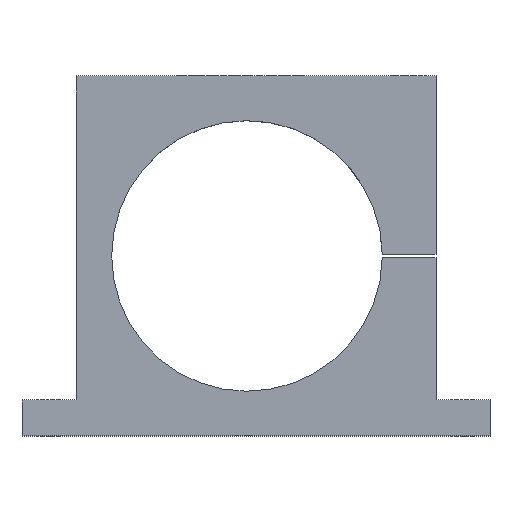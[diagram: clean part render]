
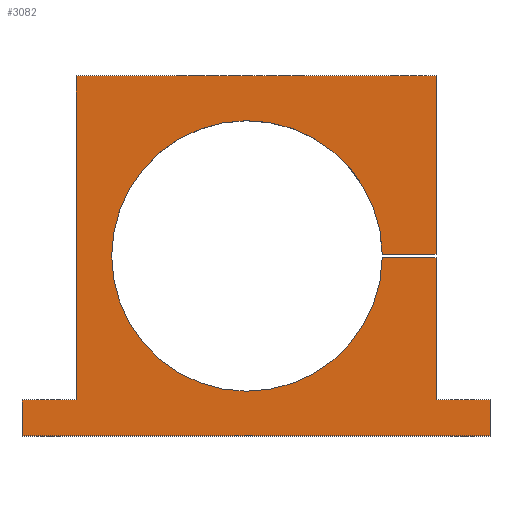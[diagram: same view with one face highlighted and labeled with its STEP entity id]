
A CAD part, top view. The second image highlights one B-rep face of the part: STEP entity #3082.
In plain terms, the highlighted planar face has unit normal (0, 0, 1).
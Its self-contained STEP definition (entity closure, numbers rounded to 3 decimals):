
#40=CIRCLE('',#3215,75.15);
#157=PLANE('',#3223);
#320=FACE_OUTER_BOUND('',#505,.T.);
#505=EDGE_LOOP('',(#2847,#2848,#2849,#2850,#2851,#2852,#2853,#2854,#2855,
#2856,#2857,#2858));
#769=LINE('',#5347,#1071);
#789=LINE('',#5427,#1091);
#790=LINE('',#5431,#1092);
#792=LINE('',#5435,#1094);
#795=LINE('',#5443,#1097);
#797=LINE('',#5447,#1099);
#799=LINE('',#5451,#1101);
#801=LINE('',#5455,#1103);
#803=LINE('',#5459,#1105);
#805=LINE('',#5463,#1107);
#807=LINE('',#5466,#1109);
#1071=VECTOR('',#3645,10.);
#1091=VECTOR('',#3725,10.);
#1092=VECTOR('',#3730,10.);
#1094=VECTOR('',#3734,10.);
#1097=VECTOR('',#3743,10.);
#1099=VECTOR('',#3747,10.);
#1101=VECTOR('',#3751,10.);
#1103=VECTOR('',#3755,10.);
#1105=VECTOR('',#3759,10.);
#1107=VECTOR('',#3763,10.);
#1109=VECTOR('',#3767,10.);
#1488=VERTEX_POINT('',#5343);
#1490=VERTEX_POINT('',#5346);
#1520=VERTEX_POINT('',#5425);
#1521=VERTEX_POINT('',#5430);
#1522=VERTEX_POINT('',#5434);
#1523=VERTEX_POINT('',#5438);
#1524=VERTEX_POINT('',#5442);
#1525=VERTEX_POINT('',#5446);
#1526=VERTEX_POINT('',#5450);
#1527=VERTEX_POINT('',#5454);
#1528=VERTEX_POINT('',#5458);
#1529=VERTEX_POINT('',#5462);
#1915=EDGE_CURVE('',#1490,#1488,#769,.T.);
#1953=EDGE_CURVE('',#1488,#1520,#789,.T.);
#1954=EDGE_CURVE('',#1521,#1490,#790,.T.);
#1956=EDGE_CURVE('',#1522,#1521,#792,.T.);
#1958=EDGE_CURVE('',#1523,#1522,#40,.T.);
#1960=EDGE_CURVE('',#1524,#1523,#795,.T.);
#1962=EDGE_CURVE('',#1525,#1524,#797,.T.);
#1964=EDGE_CURVE('',#1526,#1525,#799,.T.);
#1966=EDGE_CURVE('',#1527,#1526,#801,.T.);
#1968=EDGE_CURVE('',#1528,#1527,#803,.T.);
#1970=EDGE_CURVE('',#1529,#1528,#805,.T.);
#1972=EDGE_CURVE('',#1520,#1529,#807,.T.);
#2847=ORIENTED_EDGE('',*,*,#1972,.T.);
#2848=ORIENTED_EDGE('',*,*,#1970,.T.);
#2849=ORIENTED_EDGE('',*,*,#1968,.T.);
#2850=ORIENTED_EDGE('',*,*,#1966,.T.);
#2851=ORIENTED_EDGE('',*,*,#1964,.T.);
#2852=ORIENTED_EDGE('',*,*,#1962,.T.);
#2853=ORIENTED_EDGE('',*,*,#1960,.T.);
#2854=ORIENTED_EDGE('',*,*,#1958,.T.);
#2855=ORIENTED_EDGE('',*,*,#1956,.T.);
#2856=ORIENTED_EDGE('',*,*,#1954,.T.);
#2857=ORIENTED_EDGE('',*,*,#1915,.T.);
#2858=ORIENTED_EDGE('',*,*,#1953,.T.);
#3082=ADVANCED_FACE('',(#320),#157,.T.);
#3215=AXIS2_PLACEMENT_3D('',#5439,#3738,#3739);
#3223=AXIS2_PLACEMENT_3D('',#5467,#3768,#3769);
#3645=DIRECTION('',(-1.,0.,0.));
#3725=DIRECTION('',(0.,-1.,0.));
#3730=DIRECTION('',(0.,1.,0.));
#3734=DIRECTION('',(1.,0.,0.));
#3738=DIRECTION('center_axis',(0.,0.,-1.));
#3739=DIRECTION('ref_axis',(1.,0.013,0.));
#3743=DIRECTION('',(-1.,0.,0.));
#3747=DIRECTION('',(0.,1.,0.));
#3751=DIRECTION('',(-1.,0.,0.));
#3755=DIRECTION('',(0.,1.,0.));
#3759=DIRECTION('',(1.,0.,0.));
#3763=DIRECTION('',(0.,-1.,0.));
#3767=DIRECTION('',(-1.,0.,0.));
#3768=DIRECTION('center_axis',(0.,0.,1.));
#3769=DIRECTION('ref_axis',(1.,0.,0.));
#5343=CARTESIAN_POINT('',(30.,200.,15.));
#5346=CARTESIAN_POINT('',(230.,200.,15.));
#5347=CARTESIAN_POINT('',(30.,200.,15.));
#5425=CARTESIAN_POINT('',(30.,20.,15.));
#5427=CARTESIAN_POINT('',(30.,20.,15.));
#5430=CARTESIAN_POINT('',(230.,101.,15.));
#5431=CARTESIAN_POINT('',(230.,200.,15.));
#5434=CARTESIAN_POINT('',(200.143,101.,15.));
#5435=CARTESIAN_POINT('',(230.,101.,15.));
#5438=CARTESIAN_POINT('',(200.143,99.,15.));
#5439=CARTESIAN_POINT('Origin',(125.,100.,15.));
#5442=CARTESIAN_POINT('',(230.,99.,15.));
#5443=CARTESIAN_POINT('',(200.143,99.,15.));
#5446=CARTESIAN_POINT('',(230.,20.,15.));
#5447=CARTESIAN_POINT('',(230.,99.,15.));
#5450=CARTESIAN_POINT('',(260.,20.,15.));
#5451=CARTESIAN_POINT('',(230.,20.,15.));
#5454=CARTESIAN_POINT('',(260.,0.,15.));
#5455=CARTESIAN_POINT('',(260.,20.,15.));
#5458=CARTESIAN_POINT('',(0.,0.,15.));
#5459=CARTESIAN_POINT('',(260.,0.,15.));
#5462=CARTESIAN_POINT('',(0.,20.,15.));
#5463=CARTESIAN_POINT('',(0.,0.,15.));
#5466=CARTESIAN_POINT('',(0.,20.,15.));
#5467=CARTESIAN_POINT('Origin',(132.258,91.882,15.));
